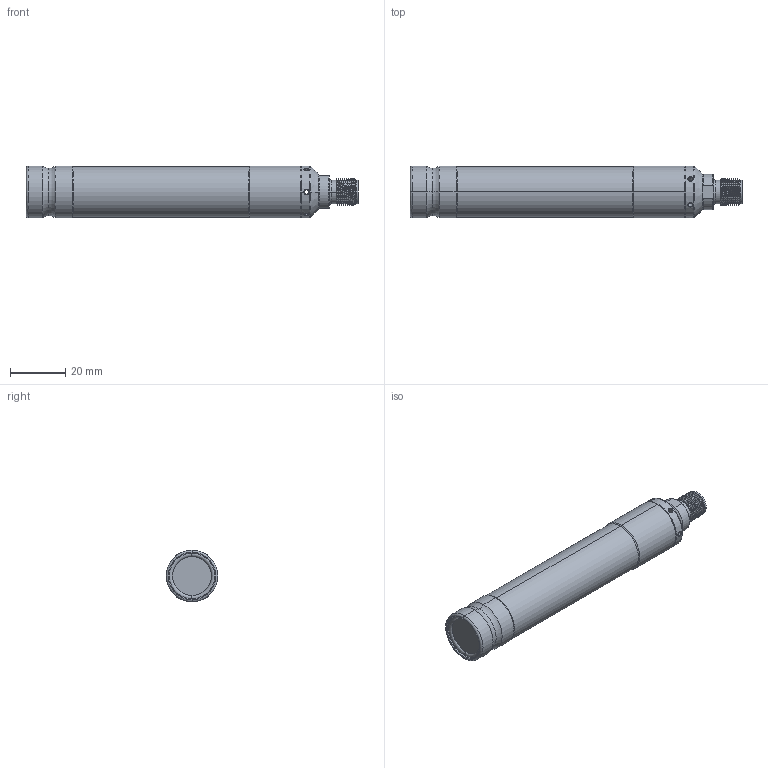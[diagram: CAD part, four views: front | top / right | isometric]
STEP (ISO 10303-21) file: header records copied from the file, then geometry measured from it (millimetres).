
FILE_DESCRIPTION (( 'STEP AP214' ), '1' );
FILE_NAME ('MicroSeaLaser-I55W1002BCR-0C-A-20140708A.STEP', '2014-07-08T21:20:04', ( '' ), ( '' ), 'SwSTEP 2.0', 'SolidWorks 2014', '' );
FILE_SCHEMA (( 'AUTOMOTIVE_DESIGN' ));
Length unit declared in the file: inch
Products named in the file (1): MicroSeaLaser-I55W1002BCR-0C-A-20140708A
Bounding box: 120.27 x 18.8 x 18.8 mm (x, y, z)
Surface area: 7902.8 mm2 (no closed solid volume)
Topology: 0 solids, 9 shells, 138 faces, 338 edges, 199 vertices
Faces by surface type: cylinder 57, cone 40, torus 24, plane 10, sphere 4, bspline 3
Entity records: 7340 total; most frequent: CARTESIAN_POINT 2472, DIRECTION 672, ORIENTED_EDGE 611, EDGE_CURVE 322, AXIS2_PLACEMENT_3D 284, VERTEX_POINT 195, CIRCLE 148, EDGE_LOOP 147
